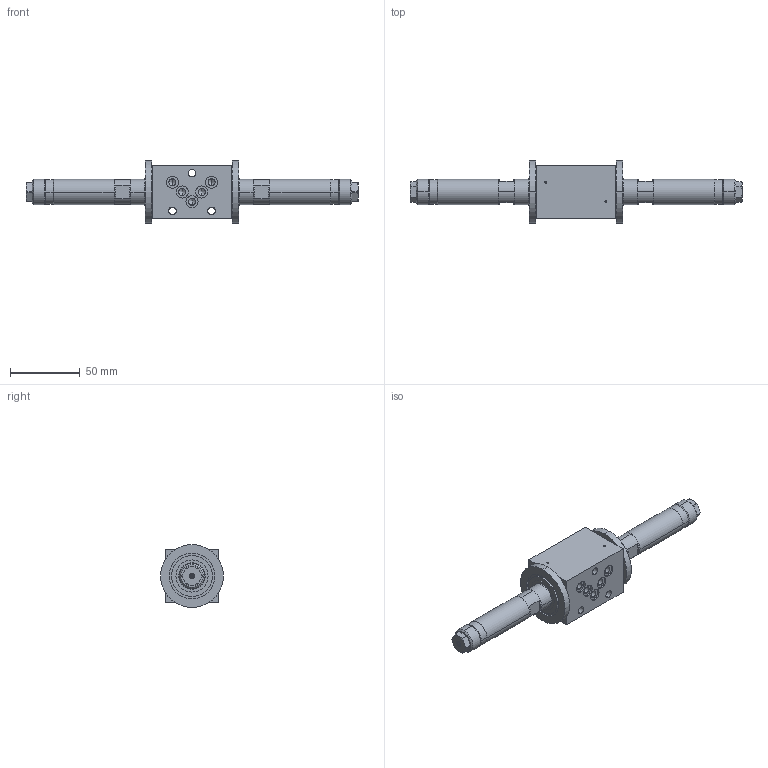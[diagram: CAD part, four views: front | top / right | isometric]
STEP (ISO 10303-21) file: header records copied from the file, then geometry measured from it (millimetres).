
FILE_DESCRIPTION (( 'STEP AP214' ), '1' );
FILE_NAME ('WDYFA04_4_3.STEP', '2016-04-06T09:48:47', ( '' ), ( '' ), 'SwSTEP 2.0', 'SolidWorks 2014', '' );
FILE_SCHEMA (( 'AUTOMOTIVE_DESIGN' ));
Length unit declared in the file: millimetre
Products named in the file (2): WDYFA04_4_3
Bounding box: 237.4 x 45 x 45 mm (x, y, z)
Volume: 133705 mm3; surface area: 33162.6 mm2
Topology: 2 solids, 2 shells, 378 faces, 891 edges, 570 vertices
Faces by surface type: plane 140, cylinder 138, cone 72, bspline 24, torus 4
Entity records: 16778 total; most frequent: CARTESIAN_POINT 3901, DIRECTION 1810, ORIENTED_EDGE 1750, EDGE_CURVE 875, AXIS2_PLACEMENT_3D 693, VERTEX_POINT 570, EDGE_LOOP 455, LINE 424
